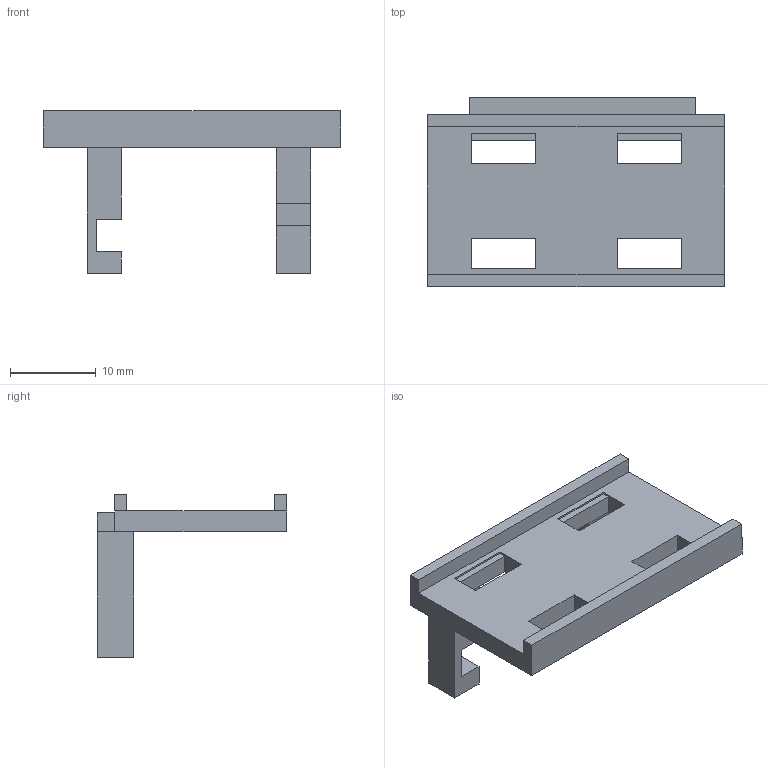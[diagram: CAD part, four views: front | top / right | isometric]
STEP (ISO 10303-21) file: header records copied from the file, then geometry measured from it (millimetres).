
FILE_DESCRIPTION(('Open CASCADE Model'),'2;1');
FILE_NAME('Open CASCADE Shape Model','2026-11-20T15:36:04',('Author'),( 'Open CASCADE'),'Open CASCADE STEP processor 8.0','Open CASCADE 8.0' ,'Unknown');
FILE_SCHEMA(('AUTOMOTIVE_DESIGN { 1 0 10303 214 1 1 1 1 }'));
Length unit declared in the file: millimetre
Products named in the file (1): Open CASCADE STEP translator 8.0 8
Bounding box: 34.6 x 22 x 18.92 mm (x, y, z)
Volume: 2183.5 mm3; surface area: 2537.4 mm2
Topology: 1 solids, 1 shells, 54 faces, 156 edges, 104 vertices
Faces by surface type: plane 54
Entity records: 3677 total; most frequent: CARTESIAN_POINT 744, DIRECTION 461, LINE 351, VECTOR 351, ORIENTED_EDGE 312, PCURVE 312, DEFINITIONAL_REPRESENTATION 312, EDGE_CURVE 156
